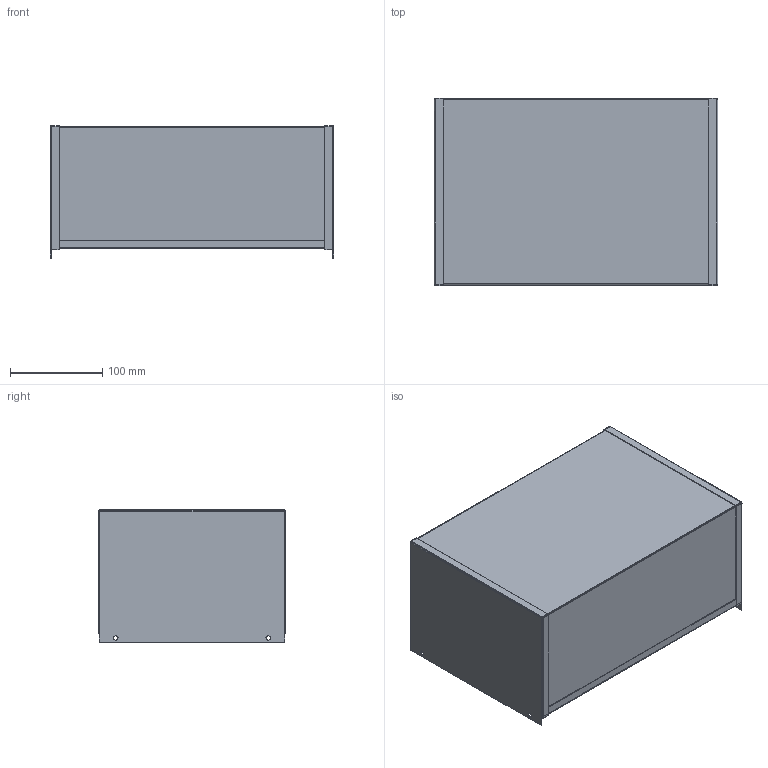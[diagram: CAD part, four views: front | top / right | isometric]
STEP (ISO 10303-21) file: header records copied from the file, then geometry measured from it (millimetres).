
FILE_DESCRIPTION((''),'2;1');
FILE_NAME('E:\Eng\Customer Service\Drawings\1451\STEP Files\1451-22.stp','2008-08-20T13:06:46',('tmalott'),(''),'Autodesk Inventor 2009','Autodesk Inventor 2009','');
FILE_SCHEMA(('AUTOMOTIVE_DESIGN { 1 0 10303 214 1 1 1 1 }'));
Length unit declared in the file: millimetre
Products named in the file (4): 1451-22; 1; 2; 3
Assembly tree (5 placements, depth 2):
  1451-22
    1
    2  x2
    3  x2
Bounding box: 307.01 x 203.2 x 143.79 mm (x, y, z)
Volume: 166526.3 mm3; surface area: 438436.4 mm2
Topology: 5 solids, 5 shells, 110 faces, 280 edges, 180 vertices
Faces by surface type: plane 66, cylinder 36, bspline 8
Full cylindrical faces by diameter (mm): 4.763 x4
Entity records: 2273 total; most frequent: CARTESIAN_POINT 657, DIRECTION 312, ORIENTED_EDGE 308, EDGE_CURVE 154, VECTOR 114, LINE 114, VERTEX_POINT 100, AXIS2_PLACEMENT_3D 99
